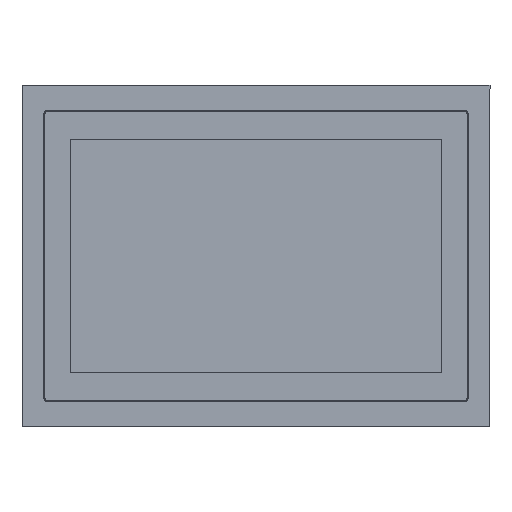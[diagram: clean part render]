
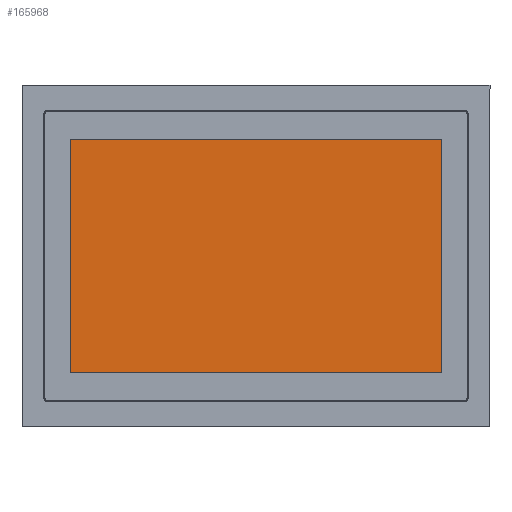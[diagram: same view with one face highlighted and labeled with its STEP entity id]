
A CAD part, top view. The second image highlights one B-rep face of the part: STEP entity #165968.
In plain terms, the highlighted planar face has unit normal (0, 0, 1).
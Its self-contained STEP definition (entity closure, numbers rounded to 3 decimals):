
#15443=FACE_OUTER_BOUND('',#24500,.T.);
#24500=EDGE_LOOP('',(#133443,#133444,#133445,#133446));
#40196=LINE('',#274100,#57494);
#40197=LINE('',#274102,#57495);
#40198=LINE('',#274104,#57496);
#40199=LINE('',#274105,#57497);
#57494=VECTOR('',#210515,1000.);
#57495=VECTOR('',#210516,1000.);
#57496=VECTOR('',#210517,1000.);
#57497=VECTOR('',#210518,1000.);
#72493=VERTEX_POINT('',#274098);
#72494=VERTEX_POINT('',#274099);
#72495=VERTEX_POINT('',#274101);
#72496=VERTEX_POINT('',#274103);
#93341=EDGE_CURVE('',#72493,#72494,#40196,.T.);
#93342=EDGE_CURVE('',#72494,#72495,#40197,.T.);
#93343=EDGE_CURVE('',#72495,#72496,#40198,.T.);
#93344=EDGE_CURVE('',#72496,#72493,#40199,.T.);
#133443=ORIENTED_EDGE('',*,*,#93341,.T.);
#133444=ORIENTED_EDGE('',*,*,#93342,.T.);
#133445=ORIENTED_EDGE('',*,*,#93343,.T.);
#133446=ORIENTED_EDGE('',*,*,#93344,.T.);
#149947=PLANE('',#176820);
#165968=ADVANCED_FACE('',(#15443),#149947,.T.);
#176820=AXIS2_PLACEMENT_3D('',#274097,#210513,#210514);
#210513=DIRECTION('center_axis',(0.,0.,
1.));
#210514=DIRECTION('ref_axis',(1.,0.,0.));
#210515=DIRECTION('',(1.,0.,0.));
#210516=DIRECTION('',(0.,1.,0.));
#210517=DIRECTION('',(-1.,0.,0.));
#210518=DIRECTION('',(0.,-1.,0.));
#274097=CARTESIAN_POINT('Origin',(-628.719,-419.232,6.2));
#274098=CARTESIAN_POINT('',(-131.15,-82.2,6.2));
#274099=CARTESIAN_POINT('',(131.15,-82.2,6.2));
#274100=CARTESIAN_POINT('',(-131.15,-82.2,6.2));
#274101=CARTESIAN_POINT('',(131.15,82.2,6.2));
#274102=CARTESIAN_POINT('',(131.15,-82.2,6.2));
#274103=CARTESIAN_POINT('',(-131.15,82.2,6.2));
#274104=CARTESIAN_POINT('',(-131.15,82.2,6.2));
#274105=CARTESIAN_POINT('',(-131.15,-82.2,6.2));
